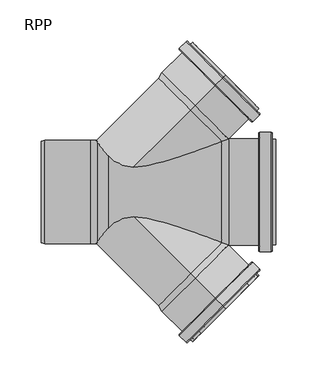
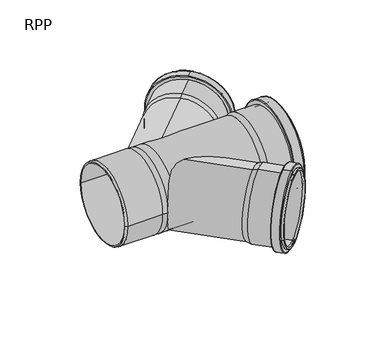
"""IFC4 building model written with IfcOpenShell, lengths in millimetres: pipe fitting geometry, RAUPIANO PLUS Double branch : RPP."""

from ifc_helpers import new_model, si_unit, point, frame, origin, place, context, project, spatial, polyline, circle_curve, ellipse_curve, trimmed, source, transform, mapped, element, save
from ifc_brep_helpers import plane_surface, cylinder_surface, revolved_surface, advanced_brep


def rpp_34af6558(model_context):
    return source(origin(), model_context, "Body", "AdvancedBrep", [
        advanced_brep(
        [(136.8, 62.5, 0.0), (136.8, -62.5, 0.0), (145.2, -64.7507732, 0.0), (145.2, 64.7507732, 0.0), (0.0, 62.5, 0.0), (0.0, -62.5, 0.0), (-13.6659564, 62.5, 0.0), (-13.6659564, -62.5, 0.0), (-22.2, 62.5, 0.0), (-22.2, -62.5, 0.0), (-77.8, 62.5, 0.0), (-77.8, -62.5, 0.0), (-82.0, 61.3746134, 0.0), (-82.0, -61.3746134, 0.0), (-22.2, 59.4, 0.0), (-22.2, -59.4, 0.0), (-82.0, -59.4, 0.0), (-82.0, 59.4, 0.0), (-13.5883429, 59.4, 0.0), (-13.5883429, -59.4, 0.0), (0.0, 59.4, 0.0), (0.0, -59.4, 0.0), (136.8, 59.4, 0.0), (136.8, -59.4, 0.0), (145.2, 61.6507732, 0.0), (145.2, -61.6507732, 0.0), (197.8, 61.6507732, 0.0), (197.8, -61.6507732, 0.0), (202.0, 61.6507732, 0.0), (202.0, -61.6507732, 0.0), (197.8, 64.1076952, 0.0), (197.8, -64.1076952, 0.0), (202.0, -64.1076952, 0.0), (202.0, 64.1076952, 0.0), (196.8, 72.1507732, 0.0), (196.8, -72.1507732, 0.0), (197.8, -71.1507732, 0.0), (197.8, 71.1507732, 0.0), (182.8, 72.1507732, 0.0), (182.8, -72.1507732, 0.0), (181.8, 71.1507732, 0.0), (181.8, -71.1507732, 0.0), (181.8, -64.7507732, 0.0), (181.8, 64.7507732, 0.0)],
        [
            (0, 1, circle_curve(frame((136.8, 0.0, 0.0), z_axis=(1.0, 0.0, 0.0), x_axis=(0.0, -1.0, 0.0)), 62.5)),
            (1, 2),
            (2, 3, circle_curve(frame((145.2, 0.0, 0.0), z_axis=(-1.0, 0.0, 0.0), x_axis=(0.0, -1.0, 0.0)), 64.7507732)),
            (3, 0),
            (0, 4),
            (4, 5, circle_curve(frame((0.0, 0.0, 0.0), z_axis=(1.0, 0.0, 0.0), x_axis=(0.0, -1.0, 0.0)), 62.5)),
            (5, 1),
            (4, 6),
            (6, 7, circle_curve(frame((-13.6659564, 0.0, 0.0), z_axis=(1.0, 0.0, 0.0), x_axis=(0.0, -1.0, 0.0)), 62.5)),
            (7, 5),
            (6, 8),
            (8, 9, circle_curve(frame((-22.2, 0.0, 0.0), z_axis=(1.0, 0.0, 0.0), x_axis=(0.0, -1.0, 0.0)), 62.5)),
            (9, 7),
            (8, 10),
            (10, 11, circle_curve(frame((-77.8, 0.0, 0.0), z_axis=(1.0, 0.0, 0.0), x_axis=(0.0, -1.0, 0.0)), 62.5)),
            (11, 9),
            (10, 12),
            (12, 13, circle_curve(frame((-82.0, 0.0, 0.0), z_axis=(1.0, 0.0, 0.0), x_axis=(0.0, -1.0, 0.0)), 61.3746134)),
            (13, 11),
            (14, 15, circle_curve(frame((-22.2, 0.0, 0.0), z_axis=(1.0, 0.0, 0.0), x_axis=(0.0, -1.0, 0.0)), 59.4)),
            (15, 16),
            (16, 17, circle_curve(frame((-82.0, 0.0, 0.0), z_axis=(-1.0, 0.0, 0.0), x_axis=(0.0, -1.0, 0.0)), 59.4)),
            (17, 14),
            (14, 18),
            (18, 19, circle_curve(frame((-13.5883429, 0.0, 0.0), z_axis=(1.0, 0.0, 0.0), x_axis=(0.0, -1.0, 0.0)), 59.4)),
            (19, 15),
            (18, 20),
            (20, 21, circle_curve(frame((0.0, 0.0, 0.0), z_axis=(1.0, 0.0, 0.0), x_axis=(0.0, -1.0, 0.0)), 59.4)),
            (21, 19),
            (20, 22),
            (22, 23, circle_curve(frame((136.8, 0.0, 0.0), z_axis=(1.0, 0.0, 0.0), x_axis=(0.0, -1.0, 0.0)), 59.4)),
            (23, 21),
            (22, 24),
            (24, 25, circle_curve(frame((145.2, 0.0, 0.0), z_axis=(1.0, 0.0, 0.0), x_axis=(0.0, -1.0, 0.0)), 61.6507732)),
            (25, 23),
            (24, 26),
            (26, 27, circle_curve(frame((197.8, 0.0, 0.0), z_axis=(1.0, 0.0, 0.0), x_axis=(0.0, -1.0, 0.0)), 61.6507732)),
            (27, 25),
            (26, 28),
            (28, 29, circle_curve(frame((202.0, 0.0, 0.0), z_axis=(1.0, 0.0, 0.0), x_axis=(0.0, -1.0, 0.0)), 61.6507732)),
            (29, 27),
            (30, 31, circle_curve(frame((197.8, 0.0, 0.0), z_axis=(1.0, 0.0, 0.0), x_axis=(0.0, -1.0, 0.0)), 64.1076952)),
            (31, 32),
            (32, 33, circle_curve(frame((202.0, 0.0, 0.0), z_axis=(-1.0, 0.0, 0.0), x_axis=(0.0, -1.0, 0.0)), 64.1076952)),
            (33, 30),
            (34, 35, circle_curve(frame((196.8, 0.0, 0.0), z_axis=(1.0, 0.0, 0.0), x_axis=(0.0, -1.0, 0.0)), 72.1507732)),
            (35, 36, circle_curve(frame((196.8, -71.1507732, 0.0), z_axis=(0.0, 0.0, 1.0), x_axis=(1.0, 0.0, 0.0)), 1.0)),
            (36, 37, circle_curve(frame((197.8, 0.0, 0.0), z_axis=(-1.0, 0.0, 0.0), x_axis=(0.0, -1.0, 0.0)), 71.1507732)),
            (37, 34, circle_curve(frame((196.8, 71.1507732, 0.0), z_axis=(0.0, 0.0, 1.0), x_axis=(1.0, 0.0, 0.0)), 1.0)),
            (34, 38),
            (38, 39, circle_curve(frame((182.8, 0.0, 0.0), z_axis=(1.0, 0.0, 0.0), x_axis=(0.0, -1.0, 0.0)), 72.1507732)),
            (39, 35),
            (38, 40, circle_curve(frame((182.8, 71.1507732, 0.0), z_axis=(0.0, 0.0, 1.0), x_axis=(1.0, 0.0, 0.0)), 1.0)),
            (40, 41, circle_curve(frame((181.8, 0.0, 0.0), z_axis=(1.0, 0.0, 0.0), x_axis=(0.0, -1.0, 0.0)), 71.1507732)),
            (41, 39, circle_curve(frame((182.8, -71.1507732, 0.0), z_axis=(0.0, 0.0, 1.0), x_axis=(1.0, 0.0, 0.0)), 1.0)),
            (2, 42),
            (42, 43, circle_curve(frame((181.8, 0.0, 0.0), z_axis=(-1.0, 0.0, 0.0), x_axis=(0.0, -1.0, 0.0)), 64.7507732)),
            (43, 3),
            (1, 0, circle_curve(frame((136.8, 0.0, 0.0), z_axis=(1.0, 0.0, 0.0), x_axis=(0.0, 1.0, 0.0)), 62.5)),
            (3, 2, circle_curve(frame((145.2, 0.0, 0.0), z_axis=(-1.0, 0.0, 0.0), x_axis=(0.0, 1.0, 0.0)), 64.7507732)),
            (5, 4, circle_curve(frame((0.0, 0.0, 0.0), z_axis=(1.0, 0.0, 0.0), x_axis=(0.0, 1.0, 0.0)), 62.5)),
            (7, 6, circle_curve(frame((-13.6659564, 0.0, 0.0), z_axis=(1.0, 0.0, 0.0), x_axis=(0.0, 1.0, 0.0)), 62.5)),
            (9, 8, circle_curve(frame((-22.2, 0.0, 0.0), z_axis=(1.0, 0.0, 0.0), x_axis=(0.0, 1.0, 0.0)), 62.5)),
            (11, 10, circle_curve(frame((-77.8, 0.0, 0.0), z_axis=(1.0, 0.0, 0.0), x_axis=(0.0, 1.0, 0.0)), 62.5)),
            (13, 12, circle_curve(frame((-82.0, 0.0, 0.0), z_axis=(1.0, 0.0, 0.0), x_axis=(0.0, 1.0, 0.0)), 61.3746134)),
            (16, 17, circle_curve(frame((-82.0, 0.0, 0.0), z_axis=(1.0, 0.0, 0.0), x_axis=(0.0, 1.0, 0.0)), 59.4)),
            (15, 14, circle_curve(frame((-22.2, 0.0, 0.0), z_axis=(1.0, 0.0, 0.0), x_axis=(0.0, 1.0, 0.0)), 59.4)),
            (19, 18, circle_curve(frame((-13.5883429, 0.0, 0.0), z_axis=(1.0, 0.0, 0.0), x_axis=(0.0, 1.0, 0.0)), 59.4)),
            (21, 20, circle_curve(frame((0.0, 0.0, 0.0), z_axis=(1.0, 0.0, 0.0), x_axis=(0.0, 1.0, 0.0)), 59.4)),
            (23, 22, circle_curve(frame((136.8, 0.0, 0.0), z_axis=(1.0, 0.0, 0.0), x_axis=(0.0, 1.0, 0.0)), 59.4)),
            (25, 24, circle_curve(frame((145.2, 0.0, 0.0), z_axis=(1.0, 0.0, 0.0), x_axis=(0.0, 1.0, 0.0)), 61.6507732)),
            (27, 26, circle_curve(frame((197.8, 0.0, 0.0), z_axis=(1.0, 0.0, 0.0), x_axis=(0.0, 1.0, 0.0)), 61.6507732)),
            (29, 28, circle_curve(frame((202.0, 0.0, 0.0), z_axis=(1.0, 0.0, 0.0), x_axis=(0.0, 1.0, 0.0)), 61.6507732)),
            (32, 33, circle_curve(frame((202.0, 0.0, 0.0), z_axis=(1.0, 0.0, 0.0), x_axis=(0.0, 1.0, 0.0)), 64.1076952)),
            (31, 30, circle_curve(frame((197.8, 0.0, 0.0), z_axis=(1.0, 0.0, 0.0), x_axis=(0.0, 1.0, 0.0)), 64.1076952)),
            (36, 37, circle_curve(frame((197.8, 0.0, 0.0), z_axis=(1.0, 0.0, 0.0), x_axis=(0.0, 1.0, 0.0)), 71.1507732)),
            (35, 34, circle_curve(frame((196.8, 0.0, 0.0), z_axis=(1.0, 0.0, 0.0), x_axis=(0.0, 1.0, 0.0)), 72.1507732)),
            (39, 38, circle_curve(frame((182.8, 0.0, 0.0), z_axis=(1.0, 0.0, 0.0), x_axis=(0.0, 1.0, 0.0)), 72.1507732)),
            (41, 40, circle_curve(frame((181.8, 0.0, 0.0), z_axis=(1.0, 0.0, 0.0), x_axis=(0.0, 1.0, 0.0)), 71.1507732)),
            (42, 43, circle_curve(frame((181.8, 0.0, 0.0), z_axis=(1.0, 0.0, 0.0), x_axis=(0.0, 1.0, 0.0)), 64.7507732)),
        ],
        [
            revolved_surface(polyline([(145.2, -64.7507732, 0.0), (136.8, -62.5, 0.0)]), (0.0, 0.0, 0.0), (-1.0, 0.0, 0.0)),
            cylinder_surface(frame((0.0, 0.0, 0.0), z_axis=(-1.0, 0.0, 0.0), x_axis=(0.0, -1.0, 0.0)), 62.5),
            revolved_surface(polyline([(-77.8, -62.5, 0.0), (-82.0, -61.3746134, 0.0)]), (0.0, 0.0, 0.0), (-1.0, 0.0, 0.0)),
            revolved_surface(polyline([(-82.0, -59.4, 0.0), (-22.2, -59.4, 0.0)]), (0.0, 0.0, 0.0), (-1.0, 0.0, 0.0)),
            revolved_surface(polyline([(-22.2, -59.4, 0.0), (-13.5883429, -59.4, 0.0)]), (0.0, 0.0, 0.0), (-1.0, 0.0, 0.0)),
            revolved_surface(polyline([(-13.5883429, -59.4, 0.0), (0.0, -59.4, 0.0)]), (0.0, 0.0, 0.0), (-1.0, 0.0, 0.0)),
            revolved_surface(polyline([(0.0, -59.4, 0.0), (136.8, -59.4, 0.0)]), (0.0, 0.0, 0.0), (-1.0, 0.0, 0.0)),
            revolved_surface(polyline([(136.8, -59.4, 0.0), (145.2, -61.6507732, 0.0)]), (0.0, 0.0, 0.0), (-1.0, 0.0, 0.0)),
            revolved_surface(polyline([(145.2, -61.6507732, 0.0), (197.8, -61.6507732, 0.0)]), (0.0, 0.0, 0.0), (-1.0, 0.0, 0.0)),
            revolved_surface(polyline([(197.8, -61.6507732, 0.0), (202.0, -61.6507732, 0.0)]), (0.0, 0.0, 0.0), (-1.0, 0.0, 0.0)),
            cylinder_surface(frame((0.0, 0.0, 0.0), z_axis=(-1.0, 0.0, 0.0), x_axis=(0.0, -1.0, 0.0)), 64.1076952),
            revolved_surface(trimmed(ellipse_curve(frame((196.8, -71.1507732, 0.0), z_axis=(0.0, 0.0, -1.0), x_axis=(1.0, 0.0, 0.0)), 1.0, 1.0), [point((197.8, -71.1507732, 0.0))], [point((196.8, -72.1507732, 0.0))], True, "CARTESIAN"), (0.0, 0.0, 0.0), (-1.0, 0.0, 0.0)),
            cylinder_surface(frame((0.0, 0.0, 0.0), z_axis=(-1.0, 0.0, 0.0), x_axis=(0.0, -1.0, 0.0)), 72.1507732),
            revolved_surface(trimmed(ellipse_curve(frame((182.8, -71.1507732, 0.0), z_axis=(0.0, 0.0, -1.0), x_axis=(1.0, 0.0, 0.0)), 1.0, 1.0), [point((182.8, -72.1507732, 0.0))], [point((181.8, -71.1507732, 0.0))], True, "CARTESIAN"), (0.0, 0.0, 0.0), (-1.0, 0.0, 0.0)),
            cylinder_surface(frame((0.0, 0.0, 0.0), z_axis=(-1.0, 0.0, 0.0), x_axis=(0.0, -1.0, 0.0)), 64.7507732),
            revolved_surface(polyline([(145.2, 64.7507732, 0.0), (136.8, 62.5, 0.0)]), (0.0, 0.0, 0.0), (-1.0, 0.0, 0.0)),
            cylinder_surface(frame((0.0, 0.0, 0.0), z_axis=(-1.0, 0.0, 0.0), x_axis=(0.0, 1.0, 0.0)), 62.5),
            revolved_surface(polyline([(-77.8, 62.5, 0.0), (-82.0, 61.3746134, 0.0)]), (0.0, 0.0, 0.0), (-1.0, 0.0, 0.0)),
            plane_surface(frame((-82.0, 0.0, 0.0), z_axis=(-1.0, 0.0, 0.0), x_axis=(0.0, 1.0, 0.0))),
            revolved_surface(polyline([(-82.0, 59.4, 0.0), (-22.2, 59.4, 0.0)]), (0.0, 0.0, 0.0), (-1.0, 0.0, 0.0)),
            revolved_surface(polyline([(-22.2, 59.4, 0.0), (-13.5883429, 59.4, 0.0)]), (0.0, 0.0, 0.0), (-1.0, 0.0, 0.0)),
            revolved_surface(polyline([(-13.5883429, 59.4, 0.0), (0.0, 59.4, 0.0)]), (0.0, 0.0, 0.0), (-1.0, 0.0, 0.0)),
            revolved_surface(polyline([(0.0, 59.4, 0.0), (136.8, 59.4, 0.0)]), (0.0, 0.0, 0.0), (-1.0, 0.0, 0.0)),
            revolved_surface(polyline([(136.8, 59.4, 0.0), (145.2, 61.6507732, 0.0)]), (0.0, 0.0, 0.0), (-1.0, 0.0, 0.0)),
            revolved_surface(polyline([(145.2, 61.6507732, 0.0), (197.8, 61.6507732, 0.0)]), (0.0, 0.0, 0.0), (-1.0, 0.0, 0.0)),
            revolved_surface(polyline([(197.8, 61.6507732, 0.0), (202.0, 61.6507732, 0.0)]), (0.0, 0.0, 0.0), (-1.0, 0.0, 0.0)),
            plane_surface(frame((202.0, 0.0, 0.0), z_axis=(1.0, 0.0, 0.0), x_axis=(0.0, 1.0, 0.0))),
            cylinder_surface(frame((0.0, 0.0, 0.0), z_axis=(-1.0, 0.0, 0.0), x_axis=(0.0, 1.0, 0.0)), 64.1076952),
            plane_surface(frame((197.8, 0.0, 0.0), z_axis=(1.0, 0.0, 0.0), x_axis=(0.0, 1.0, 0.0))),
            revolved_surface(trimmed(ellipse_curve(frame((196.8, 71.1507732, 0.0), z_axis=(0.0, 0.0, 1.0), x_axis=(1.0, 0.0, 0.0)), 1.0, 1.0), [point((197.8, 71.1507732, 0.0))], [point((196.8, 72.1507732, 0.0))], True, "CARTESIAN"), (0.0, 0.0, 0.0), (-1.0, 0.0, 0.0)),
            cylinder_surface(frame((0.0, 0.0, 0.0), z_axis=(-1.0, 0.0, 0.0), x_axis=(0.0, 1.0, 0.0)), 72.1507732),
            revolved_surface(trimmed(ellipse_curve(frame((182.8, 71.1507732, 0.0), z_axis=(0.0, 0.0, 1.0), x_axis=(1.0, 0.0, 0.0)), 1.0, 1.0), [point((182.8, 72.1507732, 0.0))], [point((181.8, 71.1507732, 0.0))], True, "CARTESIAN"), (0.0, 0.0, 0.0), (-1.0, 0.0, 0.0)),
            plane_surface(frame((181.8, 0.0, 0.0), z_axis=(-1.0, 0.0, 0.0), x_axis=(0.0, 1.0, 0.0))),
            cylinder_surface(frame((0.0, 0.0, 0.0), z_axis=(-1.0, 0.0, 0.0), x_axis=(0.0, 1.0, 0.0)), 64.7507732),
        ],
        [
            (0, [[1, 2, 3, 4]]),
            (1, [[-1, 5, 6, 7]]),
            (1, [[-6, 8, 9, 10]]),
            (1, [[-9, 11, 12, 13]]),
            (1, [[-12, 14, 15, 16]]),
            (2, [[-15, 17, 18, 19]]),
            (3, [[20, 21, 22, 23]]),
            (4, [[-20, 24, 25, 26]]),
            (5, [[-25, 27, 28, 29]]),
            (6, [[-28, 30, 31, 32]]),
            (7, [[-31, 33, 34, 35]]),
            (8, [[-34, 36, 37, 38]]),
            (9, [[-37, 39, 40, 41]]),
            (10, [[42, 43, 44, 45]]),
            (11, [[46, 47, 48, 49]]),
            (12, [[-46, 50, 51, 52]]),
            (13, [[-51, 53, 54, 55]]),
            (14, [[-3, 56, 57, 58]]),
            (15, [[-2, 59, -4, 60]]),
            (16, [[-7, 61, -5, -59]]),
            (16, [[-10, 62, -8, -61]]),
            (16, [[-13, 63, -11, -62]]),
            (16, [[-16, 64, -14, -63]]),
            (17, [[-19, 65, -17, -64]]),
            (18, [[-18, -65], [-22, 66]]),
            (19, [[-21, 67, -23, -66]]),
            (20, [[-26, 68, -24, -67]]),
            (21, [[-29, 69, -27, -68]]),
            (22, [[-32, 70, -30, -69]]),
            (23, [[-35, 71, -33, -70]]),
            (24, [[-38, 72, -36, -71]]),
            (25, [[-41, 73, -39, -72]]),
            (26, [[-44, 74], [-40, -73]]),
            (27, [[-43, 75, -45, -74]]),
            (28, [[-48, 76], [-42, -75]]),
            (29, [[-47, 77, -49, -76]]),
            (30, [[-52, 78, -50, -77]]),
            (31, [[-55, 79, -53, -78]]),
            (32, [[-54, -79], [-57, 80]]),
            (33, [[-56, -60, -58, -80]]),
        ],
    ),
        advanced_brep(
        [(99.2777921, -99.2777921, 55.0), (99.2777921, -99.2777921, -55.0), (104.3689609, -104.3689609, -56.9292342), (104.3689609, -104.3689609, 56.9292342), (104.3689609, -104.3689609, 53.8292342), (104.3689609, -104.3689609, -53.8292342), (99.2777921, -99.2777921, -51.9), (99.2777921, -99.2777921, 51.9), (138.8757718, -138.8757718, 53.8292342), (138.8757718, -138.8757718, -53.8292342), (141.4213562, -141.4213562, 53.8292342), (141.4213562, -141.4213562, -53.8292342), (138.8757718, -138.8757718, 56.6076952), (138.8757718, -138.8757718, -56.6076952), (141.4213562, -141.4213562, -56.6076952), (141.4213562, -141.4213562, 56.6076952), (138.168665, -138.168665, 62.9292342), (138.168665, -138.168665, -62.9292342), (138.8757718, -138.8757718, -61.9292342), (138.8757718, -138.8757718, 61.9292342), (129.7540943, -129.7540943, 62.9292342), (129.7540943, -129.7540943, -62.9292342), (129.0469876, -129.0469876, 61.9292342), (129.0469876, -129.0469876, -61.9292342), (129.0469876, -129.0469876, -56.9292342), (129.0469876, -129.0469876, 56.9292342)],
        [
            (0, 1, circle_curve(frame((99.2777921, -99.2777921, 0.0), z_axis=(0.7071067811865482, -0.7071067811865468, 0.0), x_axis=(0.0, 0.0, -1.0)), 55.0)),
            (1, 2),
            (2, 3, circle_curve(frame((104.3689609, -104.3689609, 0.0), z_axis=(-0.7071067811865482, 0.7071067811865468, 0.0), x_axis=(0.0, 0.0, -1.0)), 56.9292342)),
            (3, 0),
            (4, 5, circle_curve(frame((104.3689609, -104.3689609, 0.0), z_axis=(0.7071067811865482, -0.7071067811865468, 0.0), x_axis=(0.0, 0.0, -1.0)), 53.8292342)),
            (5, 6),
            (6, 7, circle_curve(frame((99.2777921, -99.2777921, 0.0), z_axis=(-0.7071067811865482, 0.7071067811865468, 0.0), x_axis=(0.0, 0.0, -1.0)), 51.9)),
            (7, 4),
            (8, 9, circle_curve(frame((138.8757718, -138.8757718, 0.0), z_axis=(0.7071067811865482, -0.7071067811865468, 0.0), x_axis=(0.0, 0.0, -1.0)), 53.8292342)),
            (9, 5),
            (4, 8),
            (10, 11, circle_curve(frame((141.4213562, -141.4213562, 0.0), z_axis=(0.7071067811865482, -0.7071067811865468, 0.0), x_axis=(0.0, 0.0, -1.0)), 53.8292342)),
            (11, 9),
            (8, 10),
            (12, 13, circle_curve(frame((138.8757718, -138.8757718, 0.0), z_axis=(0.7071067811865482, -0.7071067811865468, 0.0), x_axis=(0.0, 0.0, -1.0)), 56.6076952)),
            (13, 14),
            (14, 15, circle_curve(frame((141.4213562, -141.4213562, 0.0), z_axis=(-0.7071067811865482, 0.7071067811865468, 0.0), x_axis=(0.0, 0.0, -1.0)), 56.6076952)),
            (15, 12),
            (16, 17, circle_curve(frame((138.168665, -138.168665, 0.0), z_axis=(0.7071067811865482, -0.7071067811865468, 0.0), x_axis=(0.0, 0.0, -1.0)), 62.9292342)),
            (17, 18, circle_curve(frame((138.168665, -138.168665, -61.9292342), z_axis=(-0.7071067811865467, -0.7071067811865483, 0.0), x_axis=(0.7071067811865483, -0.7071067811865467, 0.0)), 1.0)),
            (18, 19, circle_curve(frame((138.8757718, -138.8757718, 0.0), z_axis=(-0.7071067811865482, 0.7071067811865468, 0.0), x_axis=(0.0, 0.0, -1.0)), 61.9292342)),
            (19, 16, circle_curve(frame((138.168665, -138.168665, 61.9292342), z_axis=(-0.7071067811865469, -0.7071067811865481, 0.0), x_axis=(0.7071067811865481, -0.7071067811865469, 0.0)), 1.0)),
            (20, 21, circle_curve(frame((129.7540943, -129.7540943, 0.0), z_axis=(0.7071067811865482, -0.7071067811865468, 0.0), x_axis=(0.0, 0.0, -1.0)), 62.9292342)),
            (21, 17),
            (16, 20),
            (22, 23, circle_curve(frame((129.0469876, -129.0469876, 0.0), z_axis=(0.7071067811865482, -0.7071067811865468, 0.0), x_axis=(0.0, 0.0, -1.0)), 61.9292342)),
            (23, 21, circle_curve(frame((129.7540943, -129.7540943, -61.9292342), z_axis=(-0.7071067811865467, -0.7071067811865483, 0.0), x_axis=(0.7071067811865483, -0.7071067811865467, 0.0)), 1.0)),
            (20, 22, circle_curve(frame((129.7540943, -129.7540943, 61.9292342), z_axis=(-0.7071067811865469, -0.7071067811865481, 0.0), x_axis=(0.7071067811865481, -0.7071067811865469, 0.0)), 1.0)),
            (2, 24),
            (24, 25, circle_curve(frame((129.0469876, -129.0469876, 0.0), z_axis=(-0.7071067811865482, 0.7071067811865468, 0.0), x_axis=(0.0, 0.0, -1.0)), 56.9292342)),
            (25, 3),
            (1, 0, circle_curve(frame((99.2777921, -99.2777921, 0.0), z_axis=(0.7071067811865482, -0.7071067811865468, 0.0), x_axis=(0.0, 0.0, 1.0)), 55.0)),
            (3, 2, circle_curve(frame((104.3689609, -104.3689609, 0.0), z_axis=(-0.7071067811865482, 0.7071067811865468, 0.0), x_axis=(0.0, 0.0, 1.0)), 56.9292342)),
            (6, 7, circle_curve(frame((99.2777921, -99.2777921, 0.0), z_axis=(0.7071067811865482, -0.7071067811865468, 0.0), x_axis=(0.0, 0.0, 1.0)), 51.9)),
            (5, 4, circle_curve(frame((104.3689609, -104.3689609, 0.0), z_axis=(0.7071067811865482, -0.7071067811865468, 0.0), x_axis=(0.0, 0.0, 1.0)), 53.8292342)),
            (9, 8, circle_curve(frame((138.8757718, -138.8757718, 0.0), z_axis=(0.7071067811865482, -0.7071067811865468, 0.0), x_axis=(0.0, 0.0, 1.0)), 53.8292342)),
            (11, 10, circle_curve(frame((141.4213562, -141.4213562, 0.0), z_axis=(0.7071067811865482, -0.7071067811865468, 0.0), x_axis=(0.0, 0.0, 1.0)), 53.8292342)),
            (14, 15, circle_curve(frame((141.4213562, -141.4213562, 0.0), z_axis=(0.7071067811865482, -0.7071067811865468, 0.0), x_axis=(0.0, 0.0, 1.0)), 56.6076952)),
            (13, 12, circle_curve(frame((138.8757718, -138.8757718, 0.0), z_axis=(0.7071067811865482, -0.7071067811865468, 0.0), x_axis=(0.0, 0.0, 1.0)), 56.6076952)),
            (18, 19, circle_curve(frame((138.8757718, -138.8757718, 0.0), z_axis=(0.7071067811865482, -0.7071067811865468, 0.0), x_axis=(0.0, 0.0, 1.0)), 61.9292342)),
            (17, 16, circle_curve(frame((138.168665, -138.168665, 0.0), z_axis=(0.7071067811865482, -0.7071067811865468, 0.0), x_axis=(0.0, 0.0, 1.0)), 62.9292342)),
            (21, 20, circle_curve(frame((129.7540943, -129.7540943, 0.0), z_axis=(0.7071067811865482, -0.7071067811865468, 0.0), x_axis=(0.0, 0.0, 1.0)), 62.9292342)),
            (23, 22, circle_curve(frame((129.0469876, -129.0469876, 0.0), z_axis=(0.7071067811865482, -0.7071067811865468, 0.0), x_axis=(0.0, 0.0, 1.0)), 61.9292342)),
            (24, 25, circle_curve(frame((129.0469876, -129.0469876, 0.0), z_axis=(0.7071067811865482, -0.7071067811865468, 0.0), x_axis=(0.0, 0.0, 1.0)), 56.9292342)),
        ],
        [
            revolved_surface(polyline([(104.3689609, -104.3689609, -56.9292342), (99.2777921, -99.2777921, -55.0)]), (0.0, 0.0, 0.0), (-0.7071067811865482, 0.7071067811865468, 0.0)),
            revolved_surface(polyline([(99.2777921, -99.2777921, -51.9), (104.3689609, -104.3689609, -53.8292342)]), (0.0, 0.0, 0.0), (-0.7071067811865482, 0.7071067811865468, 0.0)),
            revolved_surface(polyline([(104.3689609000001, -104.36896089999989, -53.8292342), (138.87577180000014, -138.87577179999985, -53.8292342)]), (0.0, 0.0, 0.0), (-0.7071067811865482, 0.7071067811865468, 0.0)),
            revolved_surface(polyline([(138.87577180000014, -138.87577179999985, -53.8292342), (141.42135620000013, -141.42135619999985, -53.8292342)]), (0.0, 0.0, 0.0), (-0.7071067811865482, 0.7071067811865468, 0.0)),
            cylinder_surface(frame((0.0, 0.0, 0.0), z_axis=(-0.7071067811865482, 0.7071067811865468, 0.0), x_axis=(0.0, 0.0, -1.0)), 56.6076952),
            revolved_surface(trimmed(ellipse_curve(frame((138.168665, -138.168665, -61.9292342), z_axis=(0.7071067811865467, 0.7071067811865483, 0.0), x_axis=(0.7071067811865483, -0.7071067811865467, 0.0)), 1.0, 1.0), [point((138.8757718, -138.8757718, -61.9292342))], [point((138.168665, -138.168665, -62.9292342))], True, "CARTESIAN"), (0.0, 0.0, 0.0), (-0.7071067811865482, 0.7071067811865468, 0.0)),
            cylinder_surface(frame((0.0, 0.0, 0.0), z_axis=(-0.7071067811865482, 0.7071067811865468, 0.0), x_axis=(0.0, 0.0, -1.0)), 62.9292342),
            revolved_surface(trimmed(ellipse_curve(frame((129.7540943, -129.7540943, -61.9292342), z_axis=(0.7071067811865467, 0.7071067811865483, 0.0), x_axis=(0.7071067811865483, -0.7071067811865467, 0.0)), 1.0, 1.0), [point((129.7540943, -129.7540943, -62.9292342))], [point((129.0469876, -129.0469876, -61.9292342))], True, "CARTESIAN"), (0.0, 0.0, 0.0), (-0.7071067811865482, 0.7071067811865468, 0.0)),
            cylinder_surface(frame((0.0, 0.0, 0.0), z_axis=(-0.7071067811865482, 0.7071067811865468, 0.0), x_axis=(0.0, 0.0, -1.0)), 56.9292342),
            revolved_surface(polyline([(104.3689609, -104.3689609, 56.9292342), (99.2777921, -99.2777921, 55.0)]), (0.0, 0.0, 0.0), (-0.7071067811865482, 0.7071067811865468, 0.0)),
            plane_surface(frame((99.2777921, -99.2777921, 0.0), z_axis=(-0.7071067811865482, 0.7071067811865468, 0.0), x_axis=(0.0, 0.0, 1.0))),
            revolved_surface(polyline([(99.2777921, -99.2777921, 51.9), (104.3689609, -104.3689609, 53.8292342)]), (0.0, 0.0, 0.0), (-0.7071067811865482, 0.7071067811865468, 0.0)),
            revolved_surface(polyline([(104.3689609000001, -104.36896089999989, 53.8292342), (138.87577180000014, -138.87577179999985, 53.8292342)]), (0.0, 0.0, 0.0), (-0.7071067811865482, 0.7071067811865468, 0.0)),
            revolved_surface(polyline([(138.87577180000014, -138.87577179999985, 53.8292342), (141.42135620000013, -141.42135619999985, 53.8292342)]), (0.0, 0.0, 0.0), (-0.7071067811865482, 0.7071067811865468, 0.0)),
            plane_surface(frame((141.4213562, -141.4213562, 0.0), z_axis=(0.7071067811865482, -0.7071067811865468, 0.0), x_axis=(0.0, 0.0, 1.0))),
            cylinder_surface(frame((0.0, 0.0, 0.0), z_axis=(-0.7071067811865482, 0.7071067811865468, 0.0), x_axis=(0.0, 0.0, 1.0)), 56.6076952),
            plane_surface(frame((138.8757718, -138.8757718, 0.0), z_axis=(0.7071067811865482, -0.7071067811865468, 0.0), x_axis=(0.0, 0.0, 1.0))),
            revolved_surface(trimmed(ellipse_curve(frame((138.168665, -138.168665, 61.9292342), z_axis=(-0.7071067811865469, -0.7071067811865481, 0.0), x_axis=(0.7071067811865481, -0.7071067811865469, 0.0)), 1.0, 1.0), [point((138.8757718, -138.8757718, 61.9292342))], [point((138.168665, -138.168665, 62.9292342))], True, "CARTESIAN"), (0.0, 0.0, 0.0), (-0.7071067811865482, 0.7071067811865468, 0.0)),
            cylinder_surface(frame((0.0, 0.0, 0.0), z_axis=(-0.7071067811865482, 0.7071067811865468, 0.0), x_axis=(0.0, 0.0, 1.0)), 62.9292342),
            revolved_surface(trimmed(ellipse_curve(frame((129.7540943, -129.7540943, 61.9292342), z_axis=(-0.7071067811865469, -0.7071067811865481, 0.0), x_axis=(0.7071067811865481, -0.7071067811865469, 0.0)), 1.0, 1.0), [point((129.7540943, -129.7540943, 62.9292342))], [point((129.0469876, -129.0469876, 61.9292342))], True, "CARTESIAN"), (0.0, 0.0, 0.0), (-0.7071067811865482, 0.7071067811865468, 0.0)),
            plane_surface(frame((129.0469876, -129.0469876, 0.0), z_axis=(-0.7071067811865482, 0.7071067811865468, 0.0), x_axis=(0.0, 0.0, 1.0))),
            cylinder_surface(frame((0.0, 0.0, 0.0), z_axis=(-0.7071067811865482, 0.7071067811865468, 0.0), x_axis=(0.0, 0.0, 1.0)), 56.9292342),
        ],
        [
            (0, [[1, 2, 3, 4]]),
            (1, [[5, 6, 7, 8]]),
            (2, [[9, 10, -5, 11]]),
            (3, [[12, 13, -9, 14]]),
            (4, [[15, 16, 17, 18]]),
            (5, [[19, 20, 21, 22]]),
            (6, [[23, 24, -19, 25]]),
            (7, [[26, 27, -23, 28]]),
            (8, [[-3, 29, 30, 31]]),
            (9, [[32, -4, 33, -2]]),
            (10, [[-32, -1], [34, -7]]),
            (11, [[35, -8, -34, -6]]),
            (12, [[36, -11, -35, -10]]),
            (13, [[37, -14, -36, -13]]),
            (14, [[38, -17], [-37, -12]]),
            (15, [[39, -18, -38, -16]]),
            (16, [[40, -21], [-39, -15]]),
            (17, [[41, -22, -40, -20]]),
            (18, [[42, -25, -41, -24]]),
            (19, [[43, -28, -42, -27]]),
            (20, [[-43, -26], [44, -30]]),
            (21, [[-33, -31, -44, -29]]),
        ],
    ),
        advanced_brep(
        [(99.2777921, -99.2777921, 55.0), (99.2777921, -99.2777921, -55.0), (104.3689609, -104.3689609, -56.9292342), (104.3689609, -104.3689609, 56.9292342), (0.0, 0.0, 55.0), (0.0, 0.0, -55.0), (99.2777921, -99.2777921, 51.9), (99.2777921, -99.2777921, -51.9), (0.0, 0.0, -51.9), (0.0, 0.0, 51.9), (104.3689609, -104.3689609, 53.8292342), (104.3689609, -104.3689609, -53.8292342), (138.8757718, -138.8757718, 53.8292342), (138.8757718, -138.8757718, -53.8292342), (141.4213562, -141.4213562, 53.8292342), (141.4213562, -141.4213562, -53.8292342), (138.8757718, -138.8757718, 56.9292342), (138.8757718, -138.8757718, -56.9292342), (141.4213562, -141.4213562, -56.9292342), (141.4213562, -141.4213562, 56.9292342), (138.168665, -138.168665, 62.9292342), (138.168665, -138.168665, -62.9292342), (138.8757718, -138.8757718, -61.9292342), (138.8757718, -138.8757718, 61.9292342), (129.7540943, -129.7540943, 62.9292342), (129.7540943, -129.7540943, -62.9292342), (129.0469876, -129.0469876, 61.9292342), (129.0469876, -129.0469876, -61.9292342), (129.0469876, -129.0469876, -56.9292342), (129.0469876, -129.0469876, 56.9292342)],
        [
            (0, 1, circle_curve(frame((99.2777921, -99.2777921, 0.0), z_axis=(0.7071067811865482, -0.7071067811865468, 0.0), x_axis=(0.0, 0.0, -1.0)), 55.0)),
            (1, 2),
            (2, 3, circle_curve(frame((104.3689609, -104.3689609, 0.0), z_axis=(-0.7071067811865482, 0.7071067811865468, 0.0), x_axis=(0.0, 0.0, -1.0)), 56.9292342)),
            (3, 0),
            (4, 5, circle_curve(frame((0.0, 0.0, 0.0), z_axis=(0.7071067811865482, -0.7071067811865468, 0.0), x_axis=(0.0, 0.0, -1.0)), 55.0)),
            (5, 1),
            (0, 4),
            (6, 7, circle_curve(frame((99.2777921, -99.2777921, 0.0), z_axis=(0.7071067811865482, -0.7071067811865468, 0.0), x_axis=(0.0, 0.0, -1.0)), 51.9)),
            (7, 8),
            (8, 9, circle_curve(frame((0.0, 0.0, 0.0), z_axis=(-0.7071067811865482, 0.7071067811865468, 0.0), x_axis=(0.0, 0.0, -1.0)), 51.9)),
            (9, 6),
            (10, 11, circle_curve(frame((104.3689609, -104.3689609, 0.0), z_axis=(0.7071067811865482, -0.7071067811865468, 0.0), x_axis=(0.0, 0.0, -1.0)), 53.8292342)),
            (11, 7),
            (6, 10),
            (12, 13, circle_curve(frame((138.8757718, -138.8757718, 0.0), z_axis=(0.7071067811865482, -0.7071067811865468, 0.0), x_axis=(0.0, 0.0, -1.0)), 53.8292342)),
            (13, 11),
            (10, 12),
            (14, 15, circle_curve(frame((141.4213562, -141.4213562, 0.0), z_axis=(0.7071067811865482, -0.7071067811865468, 0.0), x_axis=(0.0, 0.0, -1.0)), 53.8292342)),
            (15, 13),
            (12, 14),
            (16, 17, circle_curve(frame((138.8757718, -138.8757718, 0.0), z_axis=(0.7071067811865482, -0.7071067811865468, 0.0), x_axis=(0.0, 0.0, -1.0)), 56.9292342)),
            (17, 18),
            (18, 19, circle_curve(frame((141.4213562, -141.4213562, 0.0), z_axis=(-0.7071067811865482, 0.7071067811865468, 0.0), x_axis=(0.0, 0.0, -1.0)), 56.9292342)),
            (19, 16),
            (20, 21, circle_curve(frame((138.168665, -138.168665, 0.0), z_axis=(0.7071067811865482, -0.7071067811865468, 0.0), x_axis=(0.0, 0.0, -1.0)), 62.9292342)),
            (21, 22, circle_curve(frame((138.168665, -138.168665, -61.9292342), z_axis=(-0.7071067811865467, -0.7071067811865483, 0.0), x_axis=(0.7071067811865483, -0.7071067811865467, 0.0)), 1.0)),
            (22, 23, circle_curve(frame((138.8757718, -138.8757718, 0.0), z_axis=(-0.7071067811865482, 0.7071067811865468, 0.0), x_axis=(0.0, 0.0, -1.0)), 61.9292342)),
            (23, 20, circle_curve(frame((138.168665, -138.168665, 61.9292342), z_axis=(-0.7071067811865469, -0.7071067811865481, 0.0), x_axis=(0.7071067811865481, -0.7071067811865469, 0.0)), 1.0)),
            (24, 25, circle_curve(frame((129.7540943, -129.7540943, 0.0), z_axis=(0.7071067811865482, -0.7071067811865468, 0.0), x_axis=(0.0, 0.0, -1.0)), 62.9292342)),
            (25, 21),
            (20, 24),
            (26, 27, circle_curve(frame((129.0469876, -129.0469876, 0.0), z_axis=(0.7071067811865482, -0.7071067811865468, 0.0), x_axis=(0.0, 0.0, -1.0)), 61.9292342)),
            (27, 25, circle_curve(frame((129.7540943, -129.7540943, -61.9292342), z_axis=(-0.7071067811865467, -0.7071067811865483, 0.0), x_axis=(0.7071067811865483, -0.7071067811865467, 0.0)), 1.0)),
            (24, 26, circle_curve(frame((129.7540943, -129.7540943, 61.9292342), z_axis=(-0.7071067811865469, -0.7071067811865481, 0.0), x_axis=(0.7071067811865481, -0.7071067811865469, 0.0)), 1.0)),
            (2, 28),
            (28, 29, circle_curve(frame((129.0469876, -129.0469876, 0.0), z_axis=(-0.7071067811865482, 0.7071067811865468, 0.0), x_axis=(0.0, 0.0, -1.0)), 56.9292342)),
            (29, 3),
            (1, 0, circle_curve(frame((99.2777921, -99.2777921, 0.0), z_axis=(0.7071067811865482, -0.7071067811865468, 0.0), x_axis=(0.0, 0.0, 1.0)), 55.0)),
            (3, 2, circle_curve(frame((104.3689609, -104.3689609, 0.0), z_axis=(-0.7071067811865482, 0.7071067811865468, 0.0), x_axis=(0.0, 0.0, 1.0)), 56.9292342)),
            (5, 4, circle_curve(frame((0.0, 0.0, 0.0), z_axis=(0.7071067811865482, -0.7071067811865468, 0.0), x_axis=(0.0, 0.0, 1.0)), 55.0)),
            (8, 9, circle_curve(frame((0.0, 0.0, 0.0), z_axis=(0.7071067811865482, -0.7071067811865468, 0.0), x_axis=(0.0, 0.0, 1.0)), 51.9)),
            (7, 6, circle_curve(frame((99.2777921, -99.2777921, 0.0), z_axis=(0.7071067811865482, -0.7071067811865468, 0.0), x_axis=(0.0, 0.0, 1.0)), 51.9)),
            (11, 10, circle_curve(frame((104.3689609, -104.3689609, 0.0), z_axis=(0.7071067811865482, -0.7071067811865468, 0.0), x_axis=(0.0, 0.0, 1.0)), 53.8292342)),
            (13, 12, circle_curve(frame((138.8757718, -138.8757718, 0.0), z_axis=(0.7071067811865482, -0.7071067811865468, 0.0), x_axis=(0.0, 0.0, 1.0)), 53.8292342)),
            (15, 14, circle_curve(frame((141.4213562, -141.4213562, 0.0), z_axis=(0.7071067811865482, -0.7071067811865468, 0.0), x_axis=(0.0, 0.0, 1.0)), 53.8292342)),
            (18, 19, circle_curve(frame((141.4213562, -141.4213562, 0.0), z_axis=(0.7071067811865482, -0.7071067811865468, 0.0), x_axis=(0.0, 0.0, 1.0)), 56.9292342)),
            (17, 16, circle_curve(frame((138.8757718, -138.8757718, 0.0), z_axis=(0.7071067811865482, -0.7071067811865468, 0.0), x_axis=(0.0, 0.0, 1.0)), 56.9292342)),
            (22, 23, circle_curve(frame((138.8757718, -138.8757718, 0.0), z_axis=(0.7071067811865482, -0.7071067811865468, 0.0), x_axis=(0.0, 0.0, 1.0)), 61.9292342)),
            (21, 20, circle_curve(frame((138.168665, -138.168665, 0.0), z_axis=(0.7071067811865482, -0.7071067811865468, 0.0), x_axis=(0.0, 0.0, 1.0)), 62.9292342)),
            (25, 24, circle_curve(frame((129.7540943, -129.7540943, 0.0), z_axis=(0.7071067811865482, -0.7071067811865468, 0.0), x_axis=(0.0, 0.0, 1.0)), 62.9292342)),
            (27, 26, circle_curve(frame((129.0469876, -129.0469876, 0.0), z_axis=(0.7071067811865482, -0.7071067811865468, 0.0), x_axis=(0.0, 0.0, 1.0)), 61.9292342)),
            (28, 29, circle_curve(frame((129.0469876, -129.0469876, 0.0), z_axis=(0.7071067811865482, -0.7071067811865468, 0.0), x_axis=(0.0, 0.0, 1.0)), 56.9292342)),
        ],
        [
            revolved_surface(polyline([(104.3689609, -104.3689609, -56.9292342), (99.2777921, -99.2777921, -55.0)]), (0.0, 0.0, 0.0), (-0.7071067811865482, 0.7071067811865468, 0.0)),
            cylinder_surface(frame((0.0, 0.0, 0.0), z_axis=(-0.7071067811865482, 0.7071067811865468, 0.0), x_axis=(0.0, 0.0, -1.0)), 55.0),
            revolved_surface(polyline([(0.0, 0.0, -51.9), (99.2777921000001, -99.2777920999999, -51.9)]), (0.0, 0.0, 0.0), (-0.7071067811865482, 0.7071067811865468, 0.0)),
            revolved_surface(polyline([(99.2777921, -99.2777921, -51.9), (104.3689609, -104.3689609, -53.8292342)]), (0.0, 0.0, 0.0), (-0.7071067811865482, 0.7071067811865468, 0.0)),
            revolved_surface(polyline([(104.3689609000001, -104.36896089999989, -53.8292342), (138.87577180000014, -138.87577179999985, -53.8292342)]), (0.0, 0.0, 0.0), (-0.7071067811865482, 0.7071067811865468, 0.0)),
            revolved_surface(polyline([(138.87577180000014, -138.87577179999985, -53.8292342), (141.42135620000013, -141.42135619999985, -53.8292342)]), (0.0, 0.0, 0.0), (-0.7071067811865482, 0.7071067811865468, 0.0)),
            cylinder_surface(frame((0.0, 0.0, 0.0), z_axis=(-0.7071067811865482, 0.7071067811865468, 0.0), x_axis=(0.0, 0.0, -1.0)), 56.9292342),
            revolved_surface(trimmed(ellipse_curve(frame((138.168665, -138.168665, -61.9292342), z_axis=(0.7071067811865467, 0.7071067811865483, 0.0), x_axis=(0.7071067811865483, -0.7071067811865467, 0.0)), 1.0, 1.0), [point((138.8757718, -138.8757718, -61.9292342))], [point((138.168665, -138.168665, -62.9292342))], True, "CARTESIAN"), (0.0, 0.0, 0.0), (-0.7071067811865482, 0.7071067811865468, 0.0)),
            cylinder_surface(frame((0.0, 0.0, 0.0), z_axis=(-0.7071067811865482, 0.7071067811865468, 0.0), x_axis=(0.0, 0.0, -1.0)), 62.9292342),
            revolved_surface(trimmed(ellipse_curve(frame((129.7540943, -129.7540943, -61.9292342), z_axis=(0.7071067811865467, 0.7071067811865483, 0.0), x_axis=(0.7071067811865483, -0.7071067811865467, 0.0)), 1.0, 1.0), [point((129.7540943, -129.7540943, -62.9292342))], [point((129.0469876, -129.0469876, -61.9292342))], True, "CARTESIAN"), (0.0, 0.0, 0.0), (-0.7071067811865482, 0.7071067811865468, 0.0)),
            revolved_surface(polyline([(104.3689609, -104.3689609, 56.9292342), (99.2777921, -99.2777921, 55.0)]), (0.0, 0.0, 0.0), (-0.7071067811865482, 0.7071067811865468, 0.0)),
            cylinder_surface(frame((0.0, 0.0, 0.0), z_axis=(-0.7071067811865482, 0.7071067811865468, 0.0), x_axis=(0.0, 0.0, 1.0)), 55.0),
            plane_surface(frame((0.0, 0.0, 0.0), z_axis=(-0.7071067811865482, 0.7071067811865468, 0.0), x_axis=(0.0, 0.0, 1.0))),
            revolved_surface(polyline([(0.0, 0.0, 51.9), (99.2777921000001, -99.2777920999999, 51.9)]), (0.0, 0.0, 0.0), (-0.7071067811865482, 0.7071067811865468, 0.0)),
            revolved_surface(polyline([(99.2777921, -99.2777921, 51.9), (104.3689609, -104.3689609, 53.8292342)]), (0.0, 0.0, 0.0), (-0.7071067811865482, 0.7071067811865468, 0.0)),
            revolved_surface(polyline([(104.3689609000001, -104.36896089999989, 53.8292342), (138.87577180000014, -138.87577179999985, 53.8292342)]), (0.0, 0.0, 0.0), (-0.7071067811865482, 0.7071067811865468, 0.0)),
            revolved_surface(polyline([(138.87577180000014, -138.87577179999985, 53.8292342), (141.42135620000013, -141.42135619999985, 53.8292342)]), (0.0, 0.0, 0.0), (-0.7071067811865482, 0.7071067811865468, 0.0)),
            plane_surface(frame((141.4213562, -141.4213562, 0.0), z_axis=(0.7071067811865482, -0.7071067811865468, 0.0), x_axis=(0.0, 0.0, 1.0))),
            cylinder_surface(frame((0.0, 0.0, 0.0), z_axis=(-0.7071067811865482, 0.7071067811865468, 0.0), x_axis=(0.0, 0.0, 1.0)), 56.9292342),
            plane_surface(frame((138.8757718, -138.8757718, 0.0), z_axis=(0.7071067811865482, -0.7071067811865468, 0.0), x_axis=(0.0, 0.0, 1.0))),
            revolved_surface(trimmed(ellipse_curve(frame((138.168665, -138.168665, 61.9292342), z_axis=(-0.7071067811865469, -0.7071067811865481, 0.0), x_axis=(0.7071067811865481, -0.7071067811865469, 0.0)), 1.0, 1.0), [point((138.8757718, -138.8757718, 61.9292342))], [point((138.168665, -138.168665, 62.9292342))], True, "CARTESIAN"), (0.0, 0.0, 0.0), (-0.7071067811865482, 0.7071067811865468, 0.0)),
            cylinder_surface(frame((0.0, 0.0, 0.0), z_axis=(-0.7071067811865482, 0.7071067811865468, 0.0), x_axis=(0.0, 0.0, 1.0)), 62.9292342),
            revolved_surface(trimmed(ellipse_curve(frame((129.7540943, -129.7540943, 61.9292342), z_axis=(-0.7071067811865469, -0.7071067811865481, 0.0), x_axis=(0.7071067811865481, -0.7071067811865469, 0.0)), 1.0, 1.0), [point((129.7540943, -129.7540943, 62.9292342))], [point((129.0469876, -129.0469876, 61.9292342))], True, "CARTESIAN"), (0.0, 0.0, 0.0), (-0.7071067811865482, 0.7071067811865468, 0.0)),
            plane_surface(frame((129.0469876, -129.0469876, 0.0), z_axis=(-0.7071067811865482, 0.7071067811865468, 0.0), x_axis=(0.0, 0.0, 1.0))),
        ],
        [
            (0, [[1, 2, 3, 4]]),
            (1, [[5, 6, -1, 7]]),
            (2, [[8, 9, 10, 11]]),
            (3, [[12, 13, -8, 14]]),
            (4, [[15, 16, -12, 17]]),
            (5, [[18, 19, -15, 20]]),
            (6, [[21, 22, 23, 24]]),
            (7, [[25, 26, 27, 28]]),
            (8, [[29, 30, -25, 31]]),
            (9, [[32, 33, -29, 34]]),
            (6, [[-3, 35, 36, 37]]),
            (10, [[38, -4, 39, -2]]),
            (11, [[40, -7, -38, -6]]),
            (12, [[-40, -5], [41, -10]]),
            (13, [[42, -11, -41, -9]]),
            (14, [[43, -14, -42, -13]]),
            (15, [[44, -17, -43, -16]]),
            (16, [[45, -20, -44, -19]]),
            (17, [[46, -23], [-45, -18]]),
            (18, [[47, -24, -46, -22]]),
            (19, [[48, -27], [-47, -21]]),
            (20, [[49, -28, -48, -26]]),
            (21, [[50, -31, -49, -30]]),
            (22, [[51, -34, -50, -33]]),
            (23, [[-51, -32], [52, -36]]),
            (18, [[-39, -37, -52, -35]]),
        ],
    ),
        advanced_brep(
        [(99.2777921, 99.2777921, 55.0), (99.2777921, 99.2777921, -55.0), (104.3689609, 104.3689609, -56.9292342), (104.3689609, 104.3689609, 56.9292342), (0.0, 0.0, 55.0), (0.0, 0.0, -55.0), (99.2777921, 99.2777921, 51.9), (99.2777921, 99.2777921, -51.9), (0.0, 0.0, -51.9), (0.0, 0.0, 51.9), (104.3689609, 104.3689609, 53.8292342), (104.3689609, 104.3689609, -53.8292342), (138.8757718, 138.8757718, 53.8292342), (138.8757718, 138.8757718, -53.8292342), (141.4213562, 141.4213562, 53.8292342), (141.4213562, 141.4213562, -53.8292342), (138.8757718, 138.8757718, 56.9292342), (138.8757718, 138.8757718, -56.9292342), (141.4213562, 141.4213562, -56.9292342), (141.4213562, 141.4213562, 56.9292342), (138.168665, 138.168665, 62.9292342), (138.168665, 138.168665, -62.9292342), (138.8757718, 138.8757718, -61.9292342), (138.8757718, 138.8757718, 61.9292342), (129.7540943, 129.7540943, 62.9292342), (129.7540943, 129.7540943, -62.9292342), (129.0469876, 129.0469876, 61.9292342), (129.0469876, 129.0469876, -61.9292342), (129.0469876, 129.0469876, -56.9292342), (129.0469876, 129.0469876, 56.9292342)],
        [
            (0, 1, circle_curve(frame((99.2777921, 99.2777921, 0.0), z_axis=(0.707106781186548, 0.7071067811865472, 0.0), x_axis=(0.0, 0.0, -1.0)), 55.0)),
            (1, 2),
            (2, 3, circle_curve(frame((104.3689609, 104.3689609, 0.0), z_axis=(-0.707106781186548, -0.7071067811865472, 0.0), x_axis=(0.0, 0.0, -1.0)), 56.9292342)),
            (3, 0),
            (4, 5, circle_curve(frame((0.0, 0.0, 0.0), z_axis=(0.707106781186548, 0.7071067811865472, 0.0), x_axis=(0.0, 0.0, -1.0)), 55.0)),
            (5, 1),
            (0, 4),
            (6, 7, circle_curve(frame((99.2777921, 99.2777921, 0.0), z_axis=(0.707106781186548, 0.7071067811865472, 0.0), x_axis=(0.0, 0.0, -1.0)), 51.9)),
            (7, 8),
            (8, 9, circle_curve(frame((0.0, 0.0, 0.0), z_axis=(-0.707106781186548, -0.7071067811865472, 0.0), x_axis=(0.0, 0.0, -1.0)), 51.9)),
            (9, 6),
            (10, 11, circle_curve(frame((104.3689609, 104.3689609, 0.0), z_axis=(0.707106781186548, 0.7071067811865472, 0.0), x_axis=(0.0, 0.0, -1.0)), 53.8292342)),
            (11, 7),
            (6, 10),
            (12, 13, circle_curve(frame((138.8757718, 138.8757718, 0.0), z_axis=(0.707106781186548, 0.7071067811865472, 0.0), x_axis=(0.0, 0.0, -1.0)), 53.8292342)),
            (13, 11),
            (10, 12),
            (14, 15, circle_curve(frame((141.4213562, 141.4213562, 0.0), z_axis=(0.707106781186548, 0.7071067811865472, 0.0), x_axis=(0.0, 0.0, -1.0)), 53.8292342)),
            (15, 13),
            (12, 14),
            (16, 17, circle_curve(frame((138.8757718, 138.8757718, 0.0), z_axis=(0.707106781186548, 0.7071067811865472, 0.0), x_axis=(0.0, 0.0, -1.0)), 56.9292342)),
            (17, 18),
            (18, 19, circle_curve(frame((141.4213562, 141.4213562, 0.0), z_axis=(-0.707106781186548, -0.7071067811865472, 0.0), x_axis=(0.0, 0.0, -1.0)), 56.9292342)),
            (19, 16),
            (20, 21, circle_curve(frame((138.168665, 138.168665, 0.0), z_axis=(0.707106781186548, 0.7071067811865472, 0.0), x_axis=(0.0, 0.0, -1.0)), 62.9292342)),
            (21, 22, circle_curve(frame((138.168665, 138.168665, -61.9292342), z_axis=(0.7071067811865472, -0.707106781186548, 0.0), x_axis=(0.707106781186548, 0.7071067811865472, 0.0)), 1.0)),
            (22, 23, circle_curve(frame((138.8757718, 138.8757718, 0.0), z_axis=(-0.707106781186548, -0.7071067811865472, 0.0), x_axis=(0.0, 0.0, -1.0)), 61.9292342)),
            (23, 20, circle_curve(frame((138.168665, 138.168665, 61.9292342), z_axis=(0.7071067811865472, -0.707106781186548, 0.0), x_axis=(0.707106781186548, 0.7071067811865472, 0.0)), 1.0)),
            (24, 25, circle_curve(frame((129.7540943, 129.7540943, 0.0), z_axis=(0.707106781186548, 0.7071067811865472, 0.0), x_axis=(0.0, 0.0, -1.0)), 62.9292342)),
            (25, 21),
            (20, 24),
            (26, 27, circle_curve(frame((129.0469876, 129.0469876, 0.0), z_axis=(0.707106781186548, 0.7071067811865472, 0.0), x_axis=(0.0, 0.0, -1.0)), 61.9292342)),
            (27, 25, circle_curve(frame((129.7540943, 129.7540943, -61.9292342), z_axis=(0.7071067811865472, -0.707106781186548, 0.0), x_axis=(0.707106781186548, 0.7071067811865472, 0.0)), 1.0)),
            (24, 26, circle_curve(frame((129.7540943, 129.7540943, 61.9292342), z_axis=(0.7071067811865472, -0.707106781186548, 0.0), x_axis=(0.707106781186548, 0.7071067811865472, 0.0)), 1.0)),
            (2, 28),
            (28, 29, circle_curve(frame((129.0469876, 129.0469876, 0.0), z_axis=(-0.707106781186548, -0.7071067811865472, 0.0), x_axis=(0.0, 0.0, -1.0)), 56.9292342)),
            (29, 3),
            (1, 0, circle_curve(frame((99.2777921, 99.2777921, 0.0), z_axis=(0.707106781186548, 0.7071067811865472, 0.0), x_axis=(0.0, 0.0, 1.0)), 55.0)),
            (3, 2, circle_curve(frame((104.3689609, 104.3689609, 0.0), z_axis=(-0.707106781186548, -0.7071067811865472, 0.0), x_axis=(0.0, 0.0, 1.0)), 56.9292342)),
            (5, 4, circle_curve(frame((0.0, 0.0, 0.0), z_axis=(0.707106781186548, 0.7071067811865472, 0.0), x_axis=(0.0, 0.0, 1.0)), 55.0)),
            (8, 9, circle_curve(frame((0.0, 0.0, 0.0), z_axis=(0.707106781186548, 0.7071067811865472, 0.0), x_axis=(0.0, 0.0, 1.0)), 51.9)),
            (7, 6, circle_curve(frame((99.2777921, 99.2777921, 0.0), z_axis=(0.707106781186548, 0.7071067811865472, 0.0), x_axis=(0.0, 0.0, 1.0)), 51.9)),
            (11, 10, circle_curve(frame((104.3689609, 104.3689609, 0.0), z_axis=(0.707106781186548, 0.7071067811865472, 0.0), x_axis=(0.0, 0.0, 1.0)), 53.8292342)),
            (13, 12, circle_curve(frame((138.8757718, 138.8757718, 0.0), z_axis=(0.707106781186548, 0.7071067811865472, 0.0), x_axis=(0.0, 0.0, 1.0)), 53.8292342)),
            (15, 14, circle_curve(frame((141.4213562, 141.4213562, 0.0), z_axis=(0.707106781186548, 0.7071067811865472, 0.0), x_axis=(0.0, 0.0, 1.0)), 53.8292342)),
            (18, 19, circle_curve(frame((141.4213562, 141.4213562, 0.0), z_axis=(0.707106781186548, 0.7071067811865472, 0.0), x_axis=(0.0, 0.0, 1.0)), 56.9292342)),
            (17, 16, circle_curve(frame((138.8757718, 138.8757718, 0.0), z_axis=(0.707106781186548, 0.7071067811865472, 0.0), x_axis=(0.0, 0.0, 1.0)), 56.9292342)),
            (22, 23, circle_curve(frame((138.8757718, 138.8757718, 0.0), z_axis=(0.707106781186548, 0.7071067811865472, 0.0), x_axis=(0.0, 0.0, 1.0)), 61.9292342)),
            (21, 20, circle_curve(frame((138.168665, 138.168665, 0.0), z_axis=(0.707106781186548, 0.7071067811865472, 0.0), x_axis=(0.0, 0.0, 1.0)), 62.9292342)),
            (25, 24, circle_curve(frame((129.7540943, 129.7540943, 0.0), z_axis=(0.707106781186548, 0.7071067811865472, 0.0), x_axis=(0.0, 0.0, 1.0)), 62.9292342)),
            (27, 26, circle_curve(frame((129.0469876, 129.0469876, 0.0), z_axis=(0.707106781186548, 0.7071067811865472, 0.0), x_axis=(0.0, 0.0, 1.0)), 61.9292342)),
            (28, 29, circle_curve(frame((129.0469876, 129.0469876, 0.0), z_axis=(0.707106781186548, 0.7071067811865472, 0.0), x_axis=(0.0, 0.0, 1.0)), 56.9292342)),
        ],
        [
            revolved_surface(polyline([(104.3689609, 104.3689609, -56.9292342), (99.2777921, 99.2777921, -55.0)]), (0.0, 0.0, 0.0), (-0.707106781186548, -0.7071067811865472, 0.0)),
            cylinder_surface(frame((0.0, 0.0, 0.0), z_axis=(-0.707106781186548, -0.7071067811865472, 0.0), x_axis=(0.0, 0.0, -1.0)), 55.0),
            revolved_surface(polyline([(0.0, 0.0, -51.9), (99.27779210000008, 99.27779209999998, -51.9)]), (0.0, 0.0, 0.0), (-0.707106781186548, -0.7071067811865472, 0.0)),
            revolved_surface(polyline([(99.2777921, 99.2777921, -51.9), (104.3689609, 104.3689609, -53.8292342)]), (0.0, 0.0, 0.0), (-0.707106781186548, -0.7071067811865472, 0.0)),
            revolved_surface(polyline([(104.36896090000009, 104.36896089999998, -53.8292342), (138.8757718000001, 138.87577179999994, -53.8292342)]), (0.0, 0.0, 0.0), (-0.707106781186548, -0.7071067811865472, 0.0)),
            revolved_surface(polyline([(138.8757718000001, 138.87577179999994, -53.8292342), (141.4213562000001, 141.42135619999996, -53.8292342)]), (0.0, 0.0, 0.0), (-0.707106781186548, -0.7071067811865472, 0.0)),
            cylinder_surface(frame((0.0, 0.0, 0.0), z_axis=(-0.707106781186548, -0.7071067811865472, 0.0), x_axis=(0.0, 0.0, -1.0)), 56.9292342),
            revolved_surface(trimmed(ellipse_curve(frame((138.168665, 138.168665, -61.9292342), z_axis=(-0.7071067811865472, 0.707106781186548, 0.0), x_axis=(0.707106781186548, 0.7071067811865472, 0.0)), 1.0, 1.0), [point((138.8757718, 138.8757718, -61.9292342))], [point((138.168665, 138.168665, -62.9292342))], True, "CARTESIAN"), (0.0, 0.0, 0.0), (-0.707106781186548, -0.7071067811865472, 0.0)),
            cylinder_surface(frame((0.0, 0.0, 0.0), z_axis=(-0.707106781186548, -0.7071067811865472, 0.0), x_axis=(0.0, 0.0, -1.0)), 62.9292342),
            revolved_surface(trimmed(ellipse_curve(frame((129.7540943, 129.7540943, -61.9292342), z_axis=(-0.7071067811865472, 0.707106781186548, 0.0), x_axis=(0.707106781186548, 0.7071067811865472, 0.0)), 1.0, 1.0), [point((129.7540943, 129.7540943, -62.9292342))], [point((129.0469876, 129.0469876, -61.9292342))], True, "CARTESIAN"), (0.0, 0.0, 0.0), (-0.707106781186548, -0.7071067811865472, 0.0)),
            revolved_surface(polyline([(104.3689609, 104.3689609, 56.9292342), (99.2777921, 99.2777921, 55.0)]), (0.0, 0.0, 0.0), (-0.707106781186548, -0.7071067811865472, 0.0)),
            cylinder_surface(frame((0.0, 0.0, 0.0), z_axis=(-0.707106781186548, -0.7071067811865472, 0.0), x_axis=(0.0, 0.0, 1.0)), 55.0),
            plane_surface(frame((0.0, 0.0, 0.0), z_axis=(-0.707106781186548, -0.7071067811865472, 0.0), x_axis=(0.0, 0.0, 1.0))),
            revolved_surface(polyline([(0.0, 0.0, 51.9), (99.27779210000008, 99.27779209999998, 51.9)]), (0.0, 0.0, 0.0), (-0.707106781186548, -0.7071067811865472, 0.0)),
            revolved_surface(polyline([(99.2777921, 99.2777921, 51.9), (104.3689609, 104.3689609, 53.8292342)]), (0.0, 0.0, 0.0), (-0.707106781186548, -0.7071067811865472, 0.0)),
            revolved_surface(polyline([(104.36896090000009, 104.36896089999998, 53.8292342), (138.8757718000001, 138.87577179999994, 53.8292342)]), (0.0, 0.0, 0.0), (-0.707106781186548, -0.7071067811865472, 0.0)),
            revolved_surface(polyline([(138.8757718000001, 138.87577179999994, 53.8292342), (141.4213562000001, 141.42135619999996, 53.8292342)]), (0.0, 0.0, 0.0), (-0.707106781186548, -0.7071067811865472, 0.0)),
            plane_surface(frame((141.4213562, 141.4213562, 0.0), z_axis=(0.707106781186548, 0.7071067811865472, 0.0), x_axis=(0.0, 0.0, 1.0))),
            cylinder_surface(frame((0.0, 0.0, 0.0), z_axis=(-0.707106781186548, -0.7071067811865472, 0.0), x_axis=(0.0, 0.0, 1.0)), 56.9292342),
            plane_surface(frame((138.8757718, 138.8757718, 0.0), z_axis=(0.707106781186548, 0.7071067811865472, 0.0), x_axis=(0.0, 0.0, 1.0))),
            revolved_surface(trimmed(ellipse_curve(frame((138.168665, 138.168665, 61.9292342), z_axis=(0.7071067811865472, -0.707106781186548, 0.0), x_axis=(0.707106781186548, 0.7071067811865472, 0.0)), 1.0, 1.0), [point((138.8757718, 138.8757718, 61.9292342))], [point((138.168665, 138.168665, 62.9292342))], True, "CARTESIAN"), (0.0, 0.0, 0.0), (-0.707106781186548, -0.7071067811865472, 0.0)),
            cylinder_surface(frame((0.0, 0.0, 0.0), z_axis=(-0.707106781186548, -0.7071067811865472, 0.0), x_axis=(0.0, 0.0, 1.0)), 62.9292342),
            revolved_surface(trimmed(ellipse_curve(frame((129.7540943, 129.7540943, 61.9292342), z_axis=(0.7071067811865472, -0.707106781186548, 0.0), x_axis=(0.707106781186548, 0.7071067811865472, 0.0)), 1.0, 1.0), [point((129.7540943, 129.7540943, 62.9292342))], [point((129.0469876, 129.0469876, 61.9292342))], True, "CARTESIAN"), (0.0, 0.0, 0.0), (-0.707106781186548, -0.7071067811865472, 0.0)),
            plane_surface(frame((129.0469876, 129.0469876, 0.0), z_axis=(-0.707106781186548, -0.7071067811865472, 0.0), x_axis=(0.0, 0.0, 1.0))),
        ],
        [
            (0, [[1, 2, 3, 4]]),
            (1, [[5, 6, -1, 7]]),
            (2, [[8, 9, 10, 11]]),
            (3, [[12, 13, -8, 14]]),
            (4, [[15, 16, -12, 17]]),
            (5, [[18, 19, -15, 20]]),
            (6, [[21, 22, 23, 24]]),
            (7, [[25, 26, 27, 28]]),
            (8, [[29, 30, -25, 31]]),
            (9, [[32, 33, -29, 34]]),
            (6, [[-3, 35, 36, 37]]),
            (10, [[38, -4, 39, -2]]),
            (11, [[40, -7, -38, -6]]),
            (12, [[-40, -5], [41, -10]]),
            (13, [[42, -11, -41, -9]]),
            (14, [[43, -14, -42, -13]]),
            (15, [[44, -17, -43, -16]]),
            (16, [[45, -20, -44, -19]]),
            (17, [[46, -23], [-45, -18]]),
            (18, [[47, -24, -46, -22]]),
            (19, [[48, -27], [-47, -21]]),
            (20, [[49, -28, -48, -26]]),
            (21, [[50, -31, -49, -30]]),
            (22, [[51, -34, -50, -33]]),
            (23, [[-51, -32], [52, -36]]),
            (18, [[-39, -37, -52, -35]]),
        ],
    ),
    ])


if __name__ == "__main__":
    model = new_model("IFC4")
    model_context = context("Model", 3, world=origin())
    ifc_project = project(units=[si_unit("LENGTHUNIT", "METRE", prefix="MILLI")], contexts=[model_context])
    site = spatial("IfcSite", under=ifc_project)
    building = spatial("IfcBuilding", under=site)
    placement = place(None, origin())
    rpp_shape = rpp_34af6558(model_context)
    element("IfcPipeFitting", 1, ObjectType="RAUPIANO PLUS Double branch : RPP", at=placement, inside=building, context=model_context, shape_type="MappedRepresentation", body=[
        mapped(rpp_shape, transform((0.0, 0.0, 0.0), x_axis=(1.0, 0.0, 0.0), y_axis=(0.0, 1.0, 0.0), z_axis=(0.0, 0.0, 1.0))),
    ])
    save(model, "model.ifc")
